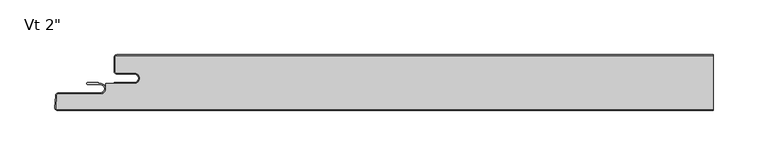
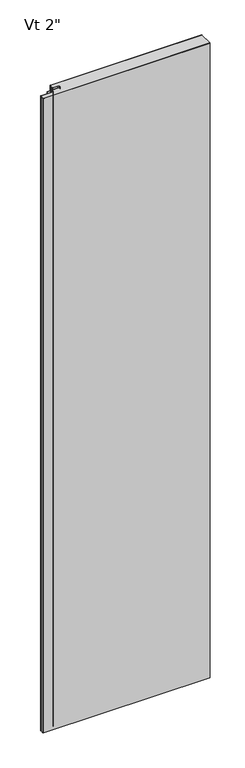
"""IFC4 building model written with IfcOpenShell, lengths in millimetres: plate geometry."""

from ifc_helpers import new_model, si_unit, point, frame_2d, origin, origin_with_axes, place, context, project, spatial, polyline, circle_curve, trimmed, segment, composite_curve, outline, extrude, source, transform, mapped, element, save


def plate_03ad6f04(model_context):
    return source(origin(), model_context, "Body", "SweptSolid", [
        extrude(outline(composite_curve([segment(polyline([(-269.6249998, -1.0), (272.7999998, -1.0), (272.7999998, -49.8), (-323.4719359, -49.8)]), True, "CONTINUOUS"), segment(trimmed(circle_curve(frame_2d((-323.4719359, -48.41875)), 1.38125), [point((-323.4719359, -49.8))], [point((-324.851293, -48.346461))], False, "CARTESIAN"), True, "CONTINUOUS"), segment(polyline([(-324.851293, -48.346461), (-324.2689115, -37.233961)]), True, "CONTINUOUS"), segment(trimmed(circle_curve(frame_2d((-322.8895545, -37.30625)), 1.38125), [point((-324.2689115, -37.233961))], [point((-322.8895545, -35.925))], False, "CARTESIAN"), True, "CONTINUOUS"), segment(polyline([(-322.8895545, -35.925), (-284.7062498, -35.925)]), True, "CONTINUOUS"), segment(trimmed(circle_curve(frame_2d((-284.7062498, -30.95625)), 4.96875), [point((-284.7062498, -35.925))], [point((-279.7374998, -30.95625))], True, "CARTESIAN"), True, "CONTINUOUS"), segment(polyline([(-279.7374998, -30.95625), (-279.7374998, -26.4), (-253.7499998, -26.4)]), True, "CONTINUOUS"), segment(trimmed(circle_curve(frame_2d((-253.7499998, -21.43125)), 4.96875), [point((-253.7499998, -26.4))], [point((-253.7499998, -16.4625))], True, "CARTESIAN"), True, "CONTINUOUS"), segment(polyline([(-253.7499998, -16.4625), (-269.6249998, -16.4625)]), True, "CONTINUOUS"), segment(trimmed(circle_curve(frame_2d((-269.6249998, -15.08125)), 1.38125), [point((-269.6249998, -16.4625))], [point((-271.0062498, -15.08125))], False, "CARTESIAN"), True, "CONTINUOUS"), segment(polyline([(-271.0062498, -15.08125), (-271.0062498, -2.38125)]), True, "CONTINUOUS"), segment(trimmed(circle_curve(frame_2d((-269.6249998, -2.38125)), 1.38125), [point((-271.0062498, -2.38125))], [point((-269.6249998, -1.0))], False, "CARTESIAN"), True, "CONTINUOUS")], self_intersect=False)), origin_with_axes(), (0.0, 0.0, 1.0), 2400.0),
        extrude(outline(composite_curve([segment(polyline([(-272.0062498, -25.4), (-253.7499998, -25.4)]), True, "CONTINUOUS"), segment(trimmed(circle_curve(frame_2d((-253.7499998, -21.43125)), 3.96875), [point((-253.7499998, -25.4))], [point((-253.7499998, -17.4625))], True, "CARTESIAN"), True, "CONTINUOUS"), segment(polyline([(-253.7499998, -17.4625), (-269.6249998, -17.4625)]), True, "CONTINUOUS"), segment(trimmed(circle_curve(frame_2d((-269.6249998, -15.08125)), 2.38125), [point((-269.6249998, -17.4625))], [point((-272.0062498, -15.08125))], False, "CARTESIAN"), True, "CONTINUOUS"), segment(polyline([(-272.0062498, -15.08125), (-272.0062498, -2.38125)]), True, "CONTINUOUS"), segment(trimmed(circle_curve(frame_2d((-269.6249998, -2.38125)), 2.38125), [point((-272.0062498, -2.38125))], [point((-269.6249998, 0.0))], False, "CARTESIAN"), True, "CONTINUOUS"), segment(polyline([(-269.6249998, 0.0), (272.7999998, 0.0), (272.7999998, -1.0), (-269.6249998, -1.0)]), True, "CONTINUOUS"), segment(trimmed(circle_curve(frame_2d((-269.6249998, -2.38125)), 1.38125), [point((-269.6249998, -1.0))], [point((-271.0062498, -2.38125))], True, "CARTESIAN"), True, "CONTINUOUS"), segment(polyline([(-271.0062498, -2.38125), (-271.0062498, -15.08125)]), True, "CONTINUOUS"), segment(trimmed(circle_curve(frame_2d((-269.6249998, -15.08125)), 1.38125), [point((-271.0062498, -15.08125))], [point((-269.6249998, -16.4625))], True, "CARTESIAN"), True, "CONTINUOUS"), segment(polyline([(-269.6249998, -16.4625), (-253.7499998, -16.4625)]), True, "CONTINUOUS"), segment(trimmed(circle_curve(frame_2d((-253.7499998, -21.43125)), 4.96875), [point((-253.7499998, -16.4625))], [point((-253.7499998, -26.4))], False, "CARTESIAN"), True, "CONTINUOUS"), segment(polyline([(-253.7499998, -26.4), (-272.0062498, -26.4), (-272.0062498, -25.4)]), True, "CONTINUOUS")], self_intersect=False)), origin_with_axes(), (0.0, 0.0, 1.0), 2400.0),
        extrude(outline(composite_curve([segment(polyline([(-296.0314548, -25.4), (-286.3080173, -25.4), (-286.3080173, -26.19375), (-284.7205173, -25.9875)]), True, "CONTINUOUS"), segment(trimmed(circle_curve(frame_2d((-284.7205173, -30.95625)), 4.96875), [point((-284.7205173, -25.9875))], [point((-284.7205173, -35.925))], False, "CARTESIAN"), True, "CONTINUOUS"), segment(polyline([(-284.7205173, -35.925), (-322.9038219, -35.925)]), True, "CONTINUOUS"), segment(trimmed(circle_curve(frame_2d((-322.9038219, -37.30625)), 1.38125), [point((-322.9038219, -35.925))], [point((-324.283179, -37.233961))], True, "CARTESIAN"), True, "CONTINUOUS"), segment(polyline([(-324.283179, -37.233961), (-324.8655604, -48.346461)]), True, "CONTINUOUS"), segment(trimmed(circle_curve(frame_2d((-323.4862034, -48.41875)), 1.38125), [point((-324.8655604, -48.346461))], [point((-323.4862034, -49.8))], True, "CARTESIAN"), True, "CONTINUOUS"), segment(polyline([(-323.4862034, -49.8), (272.7999998, -49.8), (272.7999998, -50.8), (-323.4862034, -50.8)]), True, "CONTINUOUS"), segment(trimmed(circle_curve(frame_2d((-323.4862034, -48.41875)), 2.38125), [point((-323.4862034, -50.8))], [point((-325.8641899, -48.294125))], False, "CARTESIAN"), True, "CONTINUOUS"), segment(polyline([(-325.8641899, -48.294125), (-325.2818085, -37.181625)]), True, "CONTINUOUS"), segment(trimmed(circle_curve(frame_2d((-322.9038219, -37.30625)), 2.38125), [point((-325.2818085, -37.181625))], [point((-322.9038219, -34.925))], False, "CARTESIAN"), True, "CONTINUOUS"), segment(polyline([(-322.9038219, -34.925), (-284.7205173, -34.925)]), True, "CONTINUOUS"), segment(trimmed(circle_curve(frame_2d((-284.7205173, -30.95625)), 3.96875), [point((-284.7205173, -34.925))], [point((-284.7205173, -26.9875))], True, "CARTESIAN"), True, "CONTINUOUS"), segment(polyline([(-284.7205173, -26.9875), (-296.0314548, -26.9875)]), True, "CONTINUOUS"), segment(trimmed(circle_curve(frame_2d((-296.0314548, -26.19375)), 0.79375), [point((-296.0314548, -26.9875))], [point((-296.0314548, -25.4))], False, "CARTESIAN"), True, "CONTINUOUS")], self_intersect=False)), origin_with_axes(), (0.0, 0.0, 1.0), 2400.0),
    ])


if __name__ == "__main__":
    model = new_model("IFC4")
    model_context = context("Model", 3, world=origin())
    ifc_project = project(units=[si_unit("LENGTHUNIT", "METRE", prefix="MILLI")], contexts=[model_context])
    site = spatial("IfcSite", under=ifc_project)
    building = spatial("IfcBuilding", under=site)
    placement = place(None, origin())
    plate_shape = plate_03ad6f04(model_context)
    element("IfcPlate", 1, ObjectType="KIP-36-DWTR-R19-CP-Vt-F : Vt 2\"", at=placement, inside=building, context=model_context, shape_type="MappedRepresentation", body=[
        mapped(plate_shape, transform((0.0, 0.0, 0.0), x_axis=(1.0, 0.0, 0.0), y_axis=(0.0, 1.0, 0.0), z_axis=(0.0, 0.0, 1.0))),
    ])
    save(model, "model.ifc")
